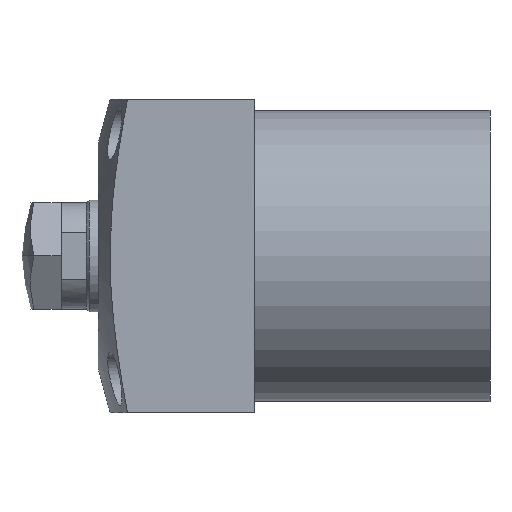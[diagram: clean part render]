
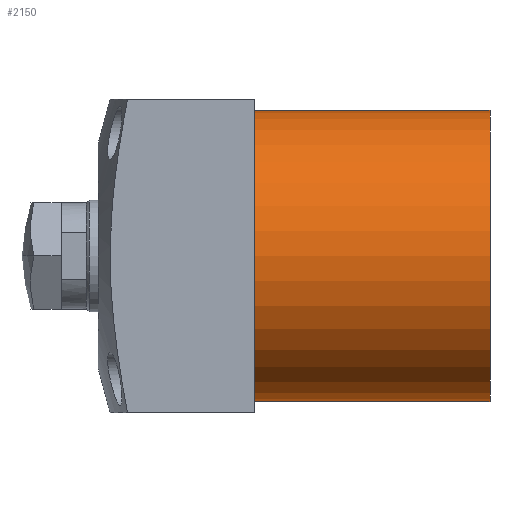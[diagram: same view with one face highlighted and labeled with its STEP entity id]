
A CAD part, left-side view. The second image highlights one B-rep face of the part: STEP entity #2150.
In plain terms, the highlighted cylindrical face has radius 26 mm (diameter 52 mm), a partial arc.
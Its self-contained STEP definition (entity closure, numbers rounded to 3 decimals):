
#78 = EDGE_CURVE ( 'NONE', #2962, #578, #1873, .T. ) ;
#149 = CARTESIAN_POINT ( 'NONE',  ( 0., 42., 0. ) ) ;
#231 = CARTESIAN_POINT ( 'NONE',  ( 0., 0., 0. ) ) ;
#252 = VERTEX_POINT ( 'NONE', #2638 ) ;
#308 = CARTESIAN_POINT ( 'NONE',  ( 0., 0., 26. ) ) ;
#341 = DIRECTION ( 'NONE',  ( 0., -1., 0. ) ) ;
#458 = DIRECTION ( 'NONE',  ( 0., 1., 0. ) ) ;
#523 = LINE ( 'NONE', #1088, #1032 ) ;
#578 = VERTEX_POINT ( 'NONE', #308 ) ;
#776 = AXIS2_PLACEMENT_3D ( 'NONE', #231, #458, #1260 ) ;
#824 = CIRCLE ( 'NONE', #2544, 26. ) ;
#891 = VERTEX_POINT ( 'NONE', #2096 ) ;
#1032 = VECTOR ( 'NONE', #2389, 1000. ) ;
#1088 = CARTESIAN_POINT ( 'NONE',  ( 0., 42., -26. ) ) ;
#1260 = DIRECTION ( 'NONE',  ( 0., 0., 1. ) ) ;
#1310 = ORIENTED_EDGE ( 'NONE', *, *, #1933, .F. ) ;
#1455 = CARTESIAN_POINT ( 'NONE',  ( 0., 0., -26. ) ) ;
#1520 = ORIENTED_EDGE ( 'NONE', *, *, #78, .T. ) ;
#1801 = DIRECTION ( 'NONE',  ( 0., -1., 0. ) ) ;
#1873 = CIRCLE ( 'NONE', #776, 26. ) ;
#1933 = EDGE_CURVE ( 'NONE', #891, #578, #2038, .T. ) ;
#2038 = LINE ( 'NONE', #3237, #2501 ) ;
#2070 = DIRECTION ( 'NONE',  ( 0., 0., -1. ) ) ;
#2096 = CARTESIAN_POINT ( 'NONE',  ( 0., 42., 26. ) ) ;
#2150 = ADVANCED_FACE ( 'NONE', ( #2282 ), #3185, .T. ) ;
#2251 = EDGE_CURVE ( 'NONE', #252, #2962, #523, .T. ) ;
#2282 = FACE_OUTER_BOUND ( 'NONE', #2693, .T. ) ;
#2389 = DIRECTION ( 'NONE',  ( 0., -1., 0. ) ) ;
#2501 = VECTOR ( 'NONE', #341, 1000. ) ;
#2544 = AXIS2_PLACEMENT_3D ( 'NONE', #149, #3251, #3001 ) ;
#2620 = ORIENTED_EDGE ( 'NONE', *, *, #3156, .F. ) ;
#2638 = CARTESIAN_POINT ( 'NONE',  ( 0., 42., -26. ) ) ;
#2643 = CARTESIAN_POINT ( 'NONE',  ( 0., 42., 0. ) ) ;
#2693 = EDGE_LOOP ( 'NONE', ( #1310, #2620, #3359, #1520 ) ) ;
#2829 = AXIS2_PLACEMENT_3D ( 'NONE', #2643, #1801, #2070 ) ;
#2962 = VERTEX_POINT ( 'NONE', #1455 ) ;
#3001 = DIRECTION ( 'NONE',  ( 0., 0., 1. ) ) ;
#3156 = EDGE_CURVE ( 'NONE', #252, #891, #824, .T. ) ;
#3185 = CYLINDRICAL_SURFACE ( 'NONE', #2829, 26. ) ;
#3237 = CARTESIAN_POINT ( 'NONE',  ( 0., 42., 26. ) ) ;
#3251 = DIRECTION ( 'NONE',  ( 0., 1., 0. ) ) ;
#3359 = ORIENTED_EDGE ( 'NONE', *, *, #2251, .T. ) ;
